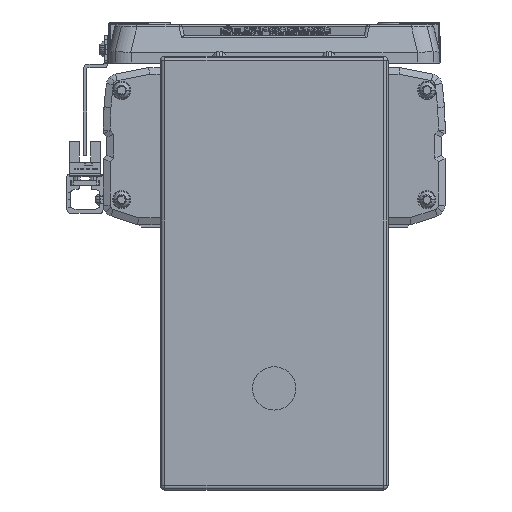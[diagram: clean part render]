
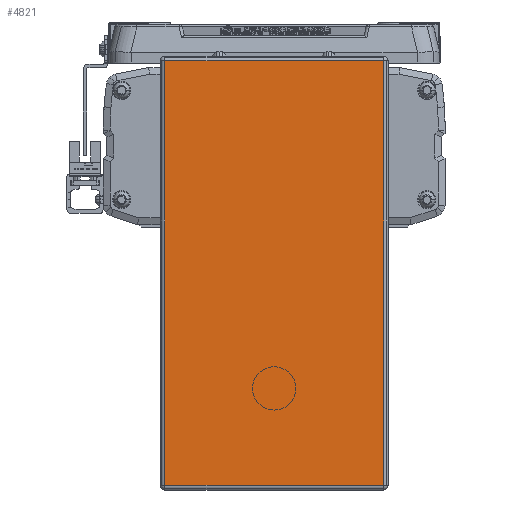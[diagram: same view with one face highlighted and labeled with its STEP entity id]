
A CAD part, left-side view. The second image highlights one B-rep face of the part: STEP entity #4821.
In plain terms, the highlighted planar face has unit normal (-1, 0, 0).
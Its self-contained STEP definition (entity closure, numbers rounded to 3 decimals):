
#4821=ADVANCED_FACE('',(#11689),#11690,.T.);
#11689=FACE_OUTER_BOUND('',#21285,.T.);
#11690=PLANE('',#21286);
#21285=EDGE_LOOP('',(#35544,#35545,#35546,#35547));
#21286=AXIS2_PLACEMENT_3D('',#35548,#35549,#35550);
#35544=ORIENTED_EDGE('',*,*,#59493,.F.);
#35545=ORIENTED_EDGE('',*,*,#59494,.F.);
#35546=ORIENTED_EDGE('',*,*,#58006,.F.);
#35547=ORIENTED_EDGE('',*,*,#59495,.F.);
#35548=CARTESIAN_POINT('',(-45.,0.,-64.2));
#35549=DIRECTION('',(-1.0,0.,0.));
#35550=DIRECTION('',(0.,1.0,0.));
#58006=EDGE_CURVE('',#69943,#69945,#69946,.T.);
#59493=EDGE_CURVE('',#69420,#72403,#72404,.T.);
#59494=EDGE_CURVE('',#69945,#69420,#72405,.T.);
#59495=EDGE_CURVE('',#72403,#69943,#72406,.T.);
#69420=VERTEX_POINT('',#85782);
#69943=VERTEX_POINT('',#86555);
#69945=VERTEX_POINT('',#86557);
#69946=LINE('',#86558,#86559);
#72403=VERTEX_POINT('',#90680);
#72404=LINE('',#90681,#90682);
#72405=LINE('',#90683,#90684);
#72406=LINE('',#90685,#90686);
#85782=CARTESIAN_POINT('',(-45.,48.,29.));
#86555=CARTESIAN_POINT('',(-45.,-48.,-157.4));
#86557=CARTESIAN_POINT('',(-45.,48.,-157.4));
#86558=CARTESIAN_POINT('',(-45.,0.,-157.4));
#86559=VECTOR('',#106449,10.0);
#90680=CARTESIAN_POINT('',(-45.,-48.,29.));
#90681=CARTESIAN_POINT('',(-45.,0.,29.));
#90682=VECTOR('',#108520,10.0);
#90683=CARTESIAN_POINT('',(-45.,48.,-64.2));
#90684=VECTOR('',#108521,10.0);
#90685=CARTESIAN_POINT('',(-45.,-48.,-64.2));
#90686=VECTOR('',#108522,10.0);
#106449=DIRECTION('',(0.,1.0,0.));
#108520=DIRECTION('',(0.,-1.0,0.));
#108521=DIRECTION('',(0.,0.,1.0));
#108522=DIRECTION('',(0.,0.,-1.0));
